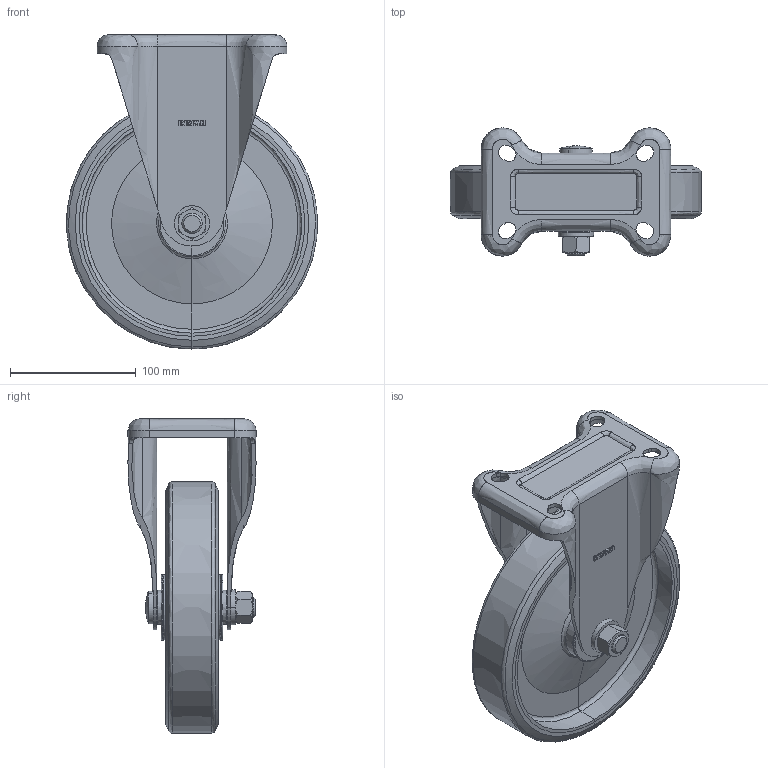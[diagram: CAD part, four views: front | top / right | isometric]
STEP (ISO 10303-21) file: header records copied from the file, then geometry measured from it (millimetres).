
FILE_DESCRIPTION (( 'STEP AP214' ), '1' );
FILE_NAME ('P-200WK.STEP', '2022-09-22T07:28:04', ( '' ), ( '' ), 'SwSTEP 2.0', 'SolidWorks 2010', '' );
FILE_SCHEMA (( 'AUTOMOTIVE_DESIGN' ));
Products named in the file (9): P200WK-10; P200WK-15; P200WK-20; P200WK-25; P200WK-30; P200WK-35; P200WK-40; P200WK-45; P-200WK
Assembly tree (8 placements, depth 2):
  P-200WK
    P200WK-20
    P200WK-40
    P200WK-25
    P200WK-15
    P200WK-45
    P200WK-35
    P200WK-10
    P200WK-30
Bounding box: 200 x 101.99 x 250 mm (x, y, z)
Volume: 607607.3 mm3; surface area: 337469.4 mm2
Topology: 14 solids, 14 shells, 473 faces, 1466 edges, 1001 vertices
Faces by surface type: bspline 379, plane 94
Entity records: 62304 total; most frequent: CARTESIAN_POINT 52138, ORIENTED_EDGE 2928, EDGE_CURVE 1464, B_SPLINE_CURVE_WITH_KNOTS 1186, VERTEX_POINT 1001, EDGE_LOOP 491, DIRECTION 488, ADVANCED_FACE 473
